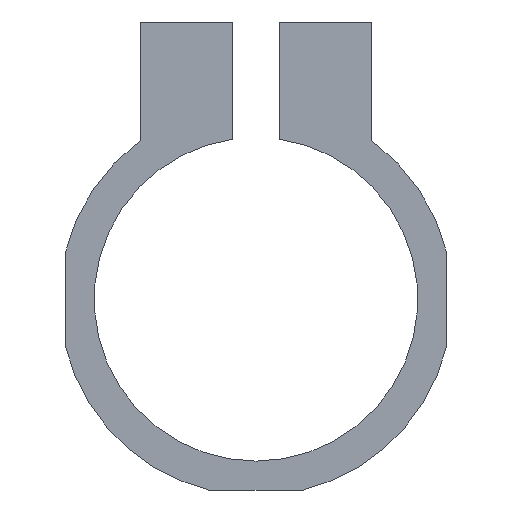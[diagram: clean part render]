
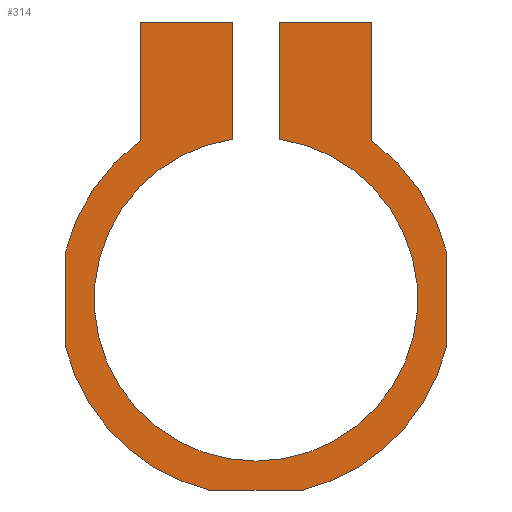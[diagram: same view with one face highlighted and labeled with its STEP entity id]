
A CAD part, front view. The second image highlights one B-rep face of the part: STEP entity #314.
In plain terms, the highlighted planar face has unit normal (0, -1, 0).
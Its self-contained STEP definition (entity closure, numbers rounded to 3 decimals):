
#13 = VERTEX_POINT ( 'NONE', #155 ) ;
#15 = CARTESIAN_POINT ( 'NONE',  ( 0., -6., 0. ) ) ;
#20 = DIRECTION ( 'NONE',  ( 0., 1., 0. ) ) ;
#27 = CARTESIAN_POINT ( 'NONE',  ( -16.5, -6., -4.093 ) ) ;
#31 = VECTOR ( 'NONE', #468, 1000. ) ;
#33 = CARTESIAN_POINT ( 'NONE',  ( 0., -6., 0. ) ) ;
#40 = DIRECTION ( 'NONE',  ( 0., 1., 0. ) ) ;
#44 = DIRECTION ( 'NONE',  ( 0., 0., 1. ) ) ;
#49 = EDGE_LOOP ( 'NONE', ( #456, #352, #573, #616, #164, #104, #88, #318, #304, #630, #504, #280, #675, #604, #606 ) ) ;
#51 = AXIS2_PLACEMENT_3D ( 'NONE', #33, #139, #316 ) ;
#53 = VECTOR ( 'NONE', #343, 1000. ) ;
#64 = CIRCLE ( 'NONE', #416, 17. ) ;
#65 = CARTESIAN_POINT ( 'NONE',  ( 2., -6., 24. ) ) ;
#66 = AXIS2_PLACEMENT_3D ( 'NONE', #567, #460, #501 ) ;
#77 = CARTESIAN_POINT ( 'NONE',  ( -16.5, -6., 4.093 ) ) ;
#88 = ORIENTED_EDGE ( 'NONE', *, *, #644, .F. ) ;
#95 = DIRECTION ( 'NONE',  ( 0., 0., 1. ) ) ;
#104 = ORIENTED_EDGE ( 'NONE', *, *, #632, .T. ) ;
#108 = LINE ( 'NONE', #212, #448 ) ;
#118 = VERTEX_POINT ( 'NONE', #65 ) ;
#123 = DIRECTION ( 'NONE',  ( 0., 0., 1. ) ) ;
#125 = EDGE_CURVE ( 'NONE', #260, #243, #611, .T. ) ;
#127 = DIRECTION ( 'NONE',  ( 0., 0., 1. ) ) ;
#137 = CIRCLE ( 'NONE', #66, 14. ) ;
#139 = DIRECTION ( 'NONE',  ( 0., 1., 0. ) ) ;
#145 = PLANE ( 'NONE',  #244 ) ;
#148 = VECTOR ( 'NONE', #127, 1000. ) ;
#154 = LINE ( 'NONE', #382, #612 ) ;
#155 = CARTESIAN_POINT ( 'NONE',  ( 10., -6., 13.748 ) ) ;
#158 = CARTESIAN_POINT ( 'NONE',  ( -10., -6., 24. ) ) ;
#162 = VERTEX_POINT ( 'NONE', #615 ) ;
#163 = EDGE_CURVE ( 'NONE', #664, #549, #355, .T. ) ;
#164 = ORIENTED_EDGE ( 'NONE', *, *, #514, .F. ) ;
#169 = CIRCLE ( 'NONE', #51, 17. ) ;
#171 = DIRECTION ( 'NONE',  ( 0., 1., 0. ) ) ;
#179 = CARTESIAN_POINT ( 'NONE',  ( 16.5, -6., -4.093 ) ) ;
#180 = VERTEX_POINT ( 'NONE', #179 ) ;
#182 = VERTEX_POINT ( 'NONE', #404 ) ;
#203 = CARTESIAN_POINT ( 'NONE',  ( 16.5, -6., -4.1 ) ) ;
#205 = CIRCLE ( 'NONE', #610, 17. ) ;
#212 = CARTESIAN_POINT ( 'NONE',  ( -10., -6., 24. ) ) ;
#229 = CARTESIAN_POINT ( 'NONE',  ( -16.5, -6., -4.1 ) ) ;
#235 = CARTESIAN_POINT ( 'NONE',  ( 4.093, -6., -16.5 ) ) ;
#242 = LINE ( 'NONE', #473, #31 ) ;
#243 = VERTEX_POINT ( 'NONE', #27 ) ;
#244 = AXIS2_PLACEMENT_3D ( 'NONE', #321, #20, #692 ) ;
#260 = VERTEX_POINT ( 'NONE', #77 ) ;
#262 = DIRECTION ( 'NONE',  ( 1., 0., 0. ) ) ;
#272 = EDGE_CURVE ( 'NONE', #180, #549, #169, .T. ) ;
#279 = CARTESIAN_POINT ( 'NONE',  ( 0., -6., 0. ) ) ;
#280 = ORIENTED_EDGE ( 'NONE', *, *, #368, .F. ) ;
#287 = CARTESIAN_POINT ( 'NONE',  ( 4.1, -6., -16.5 ) ) ;
#289 = VERTEX_POINT ( 'NONE', #313 ) ;
#292 = CARTESIAN_POINT ( 'NONE',  ( 2., -6., 10. ) ) ;
#296 = VERTEX_POINT ( 'NONE', #469 ) ;
#304 = ORIENTED_EDGE ( 'NONE', *, *, #429, .T. ) ;
#306 = CIRCLE ( 'NONE', #707, 17. ) ;
#313 = CARTESIAN_POINT ( 'NONE',  ( 0., -6., -14. ) ) ;
#314 = ADVANCED_FACE ( 'NONE', ( #369 ), #145, .F. ) ;
#316 = DIRECTION ( 'NONE',  ( 0., 0., 1. ) ) ;
#318 = ORIENTED_EDGE ( 'NONE', *, *, #574, .T. ) ;
#321 = CARTESIAN_POINT ( 'NONE',  ( 0., -6., 0. ) ) ;
#336 = CARTESIAN_POINT ( 'NONE',  ( 0., -6., 0. ) ) ;
#343 = DIRECTION ( 'NONE',  ( 0., 0., -1. ) ) ;
#352 = ORIENTED_EDGE ( 'NONE', *, *, #163, .T. ) ;
#355 = LINE ( 'NONE', #287, #516 ) ;
#363 = CARTESIAN_POINT ( 'NONE',  ( -2., -6., 10. ) ) ;
#368 = EDGE_CURVE ( 'NONE', #378, #613, #108, .T. ) ;
#369 = FACE_OUTER_BOUND ( 'NONE', #49, .T. ) ;
#378 = VERTEX_POINT ( 'NONE', #158 ) ;
#382 = CARTESIAN_POINT ( 'NONE',  ( -10., -6., -17.001 ) ) ;
#383 = VERTEX_POINT ( 'NONE', #483 ) ;
#404 = CARTESIAN_POINT ( 'NONE',  ( 16.5, -6., 4.093 ) ) ;
#414 = EDGE_CURVE ( 'NONE', #180, #182, #595, .T. ) ;
#416 = AXIS2_PLACEMENT_3D ( 'NONE', #496, #666, #95 ) ;
#418 = CARTESIAN_POINT ( 'NONE',  ( -10., -6., 13.748 ) ) ;
#422 = CARTESIAN_POINT ( 'NONE',  ( -4.093, -6., -16.5 ) ) ;
#424 = EDGE_CURVE ( 'NONE', #664, #243, #64, .T. ) ;
#427 = AXIS2_PLACEMENT_3D ( 'NONE', #336, #40, #430 ) ;
#429 = EDGE_CURVE ( 'NONE', #162, #289, #577, .T. ) ;
#430 = DIRECTION ( 'NONE',  ( 0., 0., 1. ) ) ;
#448 = VECTOR ( 'NONE', #262, 1000. ) ;
#456 = ORIENTED_EDGE ( 'NONE', *, *, #424, .F. ) ;
#459 = EDGE_CURVE ( 'NONE', #671, #378, #154, .T. ) ;
#460 = DIRECTION ( 'NONE',  ( 0., 1., 0. ) ) ;
#461 = DIRECTION ( 'NONE',  ( 1., 0., 0. ) ) ;
#464 = VECTOR ( 'NONE', #688, 1000. ) ;
#468 = DIRECTION ( 'NONE',  ( 0., 0., 1. ) ) ;
#469 = CARTESIAN_POINT ( 'NONE',  ( -2., -6., 13.856 ) ) ;
#473 = CARTESIAN_POINT ( 'NONE',  ( 10., -6., -17.001 ) ) ;
#483 = CARTESIAN_POINT ( 'NONE',  ( 10., -6., 24. ) ) ;
#492 = EDGE_CURVE ( 'NONE', #260, #671, #205, .T. ) ;
#496 = CARTESIAN_POINT ( 'NONE',  ( 0., -6., 0. ) ) ;
#501 = DIRECTION ( 'NONE',  ( 0., 0., 1. ) ) ;
#504 = ORIENTED_EDGE ( 'NONE', *, *, #711, .T. ) ;
#514 = EDGE_CURVE ( 'NONE', #13, #182, #306, .T. ) ;
#516 = VECTOR ( 'NONE', #461, 1000. ) ;
#530 = CARTESIAN_POINT ( 'NONE',  ( -2., -6., 24. ) ) ;
#549 = VERTEX_POINT ( 'NONE', #235 ) ;
#556 = DIRECTION ( 'NONE',  ( 0., 0., -1. ) ) ;
#567 = CARTESIAN_POINT ( 'NONE',  ( 0., -6., 0. ) ) ;
#573 = ORIENTED_EDGE ( 'NONE', *, *, #272, .F. ) ;
#574 = EDGE_CURVE ( 'NONE', #118, #162, #614, .T. ) ;
#577 = CIRCLE ( 'NONE', #427, 14. ) ;
#586 = EDGE_CURVE ( 'NONE', #289, #296, #137, .T. ) ;
#591 = DIRECTION ( 'NONE',  ( 0., 0., 1. ) ) ;
#595 = LINE ( 'NONE', #203, #719 ) ;
#602 = VECTOR ( 'NONE', #556, 1000. ) ;
#604 = ORIENTED_EDGE ( 'NONE', *, *, #492, .F. ) ;
#606 = ORIENTED_EDGE ( 'NONE', *, *, #125, .T. ) ;
#609 = DIRECTION ( 'NONE',  ( 0., 1., 0. ) ) ;
#610 = AXIS2_PLACEMENT_3D ( 'NONE', #279, #171, #669 ) ;
#611 = LINE ( 'NONE', #229, #602 ) ;
#612 = VECTOR ( 'NONE', #44, 1000. ) ;
#613 = VERTEX_POINT ( 'NONE', #530 ) ;
#614 = LINE ( 'NONE', #292, #53 ) ;
#615 = CARTESIAN_POINT ( 'NONE',  ( 2., -6., 13.856 ) ) ;
#616 = ORIENTED_EDGE ( 'NONE', *, *, #414, .T. ) ;
#630 = ORIENTED_EDGE ( 'NONE', *, *, #586, .T. ) ;
#632 = EDGE_CURVE ( 'NONE', #13, #383, #242, .T. ) ;
#636 = CARTESIAN_POINT ( 'NONE',  ( -10., -6., 24. ) ) ;
#643 = LINE ( 'NONE', #636, #464 ) ;
#644 = EDGE_CURVE ( 'NONE', #118, #383, #643, .T. ) ;
#664 = VERTEX_POINT ( 'NONE', #422 ) ;
#666 = DIRECTION ( 'NONE',  ( 0., 1., 0. ) ) ;
#669 = DIRECTION ( 'NONE',  ( 0., 0., 1. ) ) ;
#671 = VERTEX_POINT ( 'NONE', #418 ) ;
#675 = ORIENTED_EDGE ( 'NONE', *, *, #459, .F. ) ;
#688 = DIRECTION ( 'NONE',  ( 1., 0., 0. ) ) ;
#692 = DIRECTION ( 'NONE',  ( 0., 0., 1. ) ) ;
#697 = LINE ( 'NONE', #363, #148 ) ;
#707 = AXIS2_PLACEMENT_3D ( 'NONE', #15, #609, #123 ) ;
#711 = EDGE_CURVE ( 'NONE', #296, #613, #697, .T. ) ;
#719 = VECTOR ( 'NONE', #591, 1000. ) ;
